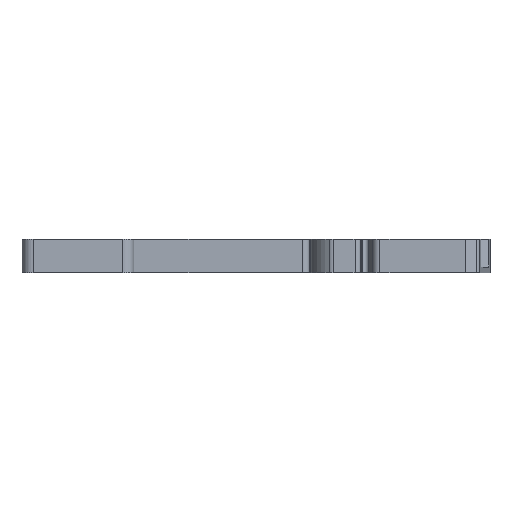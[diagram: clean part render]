
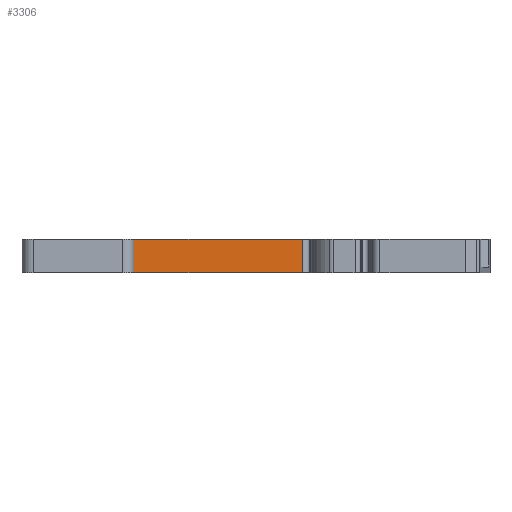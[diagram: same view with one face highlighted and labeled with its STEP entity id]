
A CAD part, front view. The second image highlights one B-rep face of the part: STEP entity #3306.
In plain terms, the highlighted planar face has unit normal (0, -1, 0).
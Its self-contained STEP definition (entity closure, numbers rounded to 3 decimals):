
#2014=PLANE('',#32447);
#3306=ADVANCED_FACE('',(#4874),#2014,.T.);
#4874=FACE_OUTER_BOUND('',#6468,.T.);
#6468=EDGE_LOOP('',(#19391,#19392,#19393,#19394));
#8350=LINE('',#47625,#11893);
#8922=LINE('',#49015,#12465);
#9513=LINE('',#50489,#13056);
#9514=LINE('',#50491,#13057);
#11893=VECTOR('',#35888,1.);
#12465=VECTOR('',#36736,1.);
#13056=VECTOR('',#37919,1.);
#13057=VECTOR('',#37922,1.);
#19391=ORIENTED_EDGE('',*,*,#28766,.T.);
#19392=ORIENTED_EDGE('',*,*,#29496,.T.);
#19393=ORIENTED_EDGE('',*,*,#28074,.F.);
#19394=ORIENTED_EDGE('',*,*,#29497,.T.);
#24814=VERTEX_POINT('',#47624);
#24815=VERTEX_POINT('',#47626);
#25494=VERTEX_POINT('',#49014);
#25495=VERTEX_POINT('',#49016);
#28074=EDGE_CURVE('',#24814,#24815,#8350,.T.);
#28766=EDGE_CURVE('',#25495,#25494,#8922,.T.);
#29496=EDGE_CURVE('',#25494,#24815,#9513,.T.);
#29497=EDGE_CURVE('',#24814,#25495,#9514,.T.);
#32447=AXIS2_PLACEMENT_3D('',#50492,#37923,#37924);
#35888=DIRECTION('',(-1.,0.,0.));
#36736=DIRECTION('',(-1.,0.,0.));
#37919=DIRECTION('',(0.,0.,-1.));
#37922=DIRECTION('',(0.,0.,1.));
#37923=DIRECTION('',(0.,-1.,0.));
#37924=DIRECTION('',(1.,0.,0.));
#47624=CARTESIAN_POINT('',(-0.254,-41.4,-6.));
#47625=CARTESIAN_POINT('',(-0.254,-41.4,-6.));
#47626=CARTESIAN_POINT('',(-30.818,-41.4,-6.));
#49014=CARTESIAN_POINT('',(-30.818,-41.4,0.));
#49015=CARTESIAN_POINT('',(-0.254,-41.4,0.));
#49016=CARTESIAN_POINT('',(-0.254,-41.4,0.));
#50489=CARTESIAN_POINT('',(-30.818,-41.4,0.));
#50491=CARTESIAN_POINT('',(-0.254,-41.4,-6.));
#50492=CARTESIAN_POINT('',(-33.053,-41.4,-6.));
